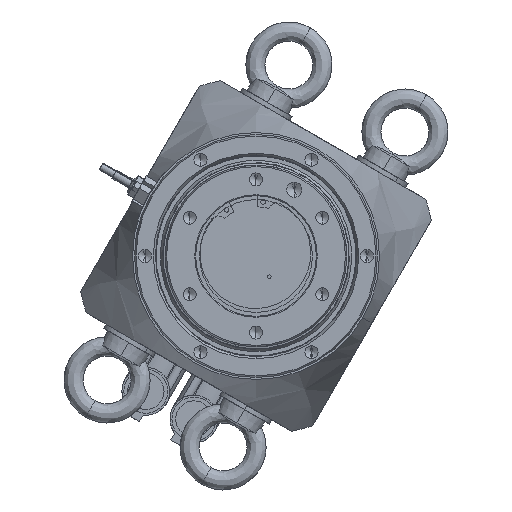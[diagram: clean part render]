
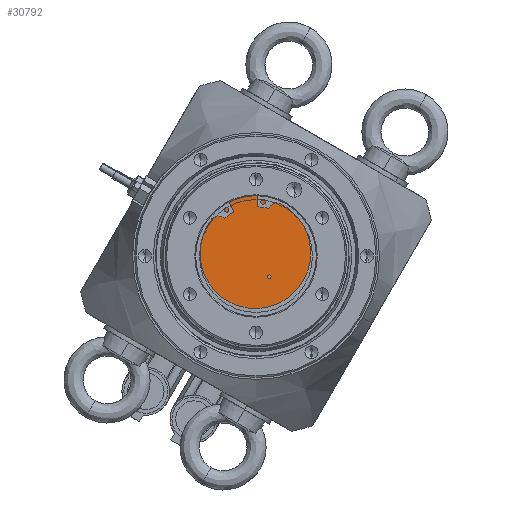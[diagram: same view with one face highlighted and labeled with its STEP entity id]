
A CAD part, front view. The second image highlights one B-rep face of the part: STEP entity #30792.
In plain terms, the highlighted planar face has unit normal (0, -1, 0).
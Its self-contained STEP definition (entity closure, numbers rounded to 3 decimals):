
#3617 = DIRECTION ( 'NONE',  ( 0., 1., 0. ) ) ;
#5717 = VERTEX_POINT ( 'NONE', #13965 ) ;
#6009 = CARTESIAN_POINT ( 'NONE',  ( 78.16, -247.879, 87.367 ) ) ;
#13965 = CARTESIAN_POINT ( 'NONE',  ( 71.219, -247.879, 128.694 ) ) ;
#14521 = DIRECTION ( 'NONE',  ( 0., 0., 1. ) ) ;
#15636 = DIRECTION ( 'NONE',  ( 0., 1., 0. ) ) ;
#16505 = AXIS2_PLACEMENT_3D ( 'NONE', #38890, #15636, #43622 ) ;
#18612 = EDGE_CURVE ( 'NONE', #29553, #32354, #41496, .T. ) ;
#18684 = AXIS2_PLACEMENT_3D ( 'NONE', #25039, #30157, #34423 ) ;
#21013 = FACE_BOUND ( 'NONE', #28574, .T. ) ;
#21206 = EDGE_CURVE ( 'NONE', #5717, #52795, #29458, .T. ) ;
#23594 = EDGE_CURVE ( 'NONE', #52795, #5717, #27758, .T. ) ;
#25039 = CARTESIAN_POINT ( 'NONE',  ( 78.16, -247.879, 86.367 ) ) ;
#26970 = AXIS2_PLACEMENT_3D ( 'NONE', #31642, #54598, #41035 ) ;
#27758 = CIRCLE ( 'NONE', #27903, 31.5 ) ;
#27903 = AXIS2_PLACEMENT_3D ( 'NONE', #31142, #3617, #35811 ) ;
#28574 = EDGE_LOOP ( 'NONE', ( #52330, #45171 ) ) ;
#28635 = DIRECTION ( 'NONE',  ( 0., 1., 0. ) ) ;
#29458 = CIRCLE ( 'NONE', #32050, 31.5 ) ;
#29553 = VERTEX_POINT ( 'NONE', #51907 ) ;
#30157 = DIRECTION ( 'NONE',  ( 0., 1., 0. ) ) ;
#30334 = ORIENTED_EDGE ( 'NONE', *, *, #21206, .F. ) ;
#30792 = ADVANCED_FACE ( 'NONE', ( #32672, #21013 ), #59749, .F. ) ;
#31142 = CARTESIAN_POINT ( 'NONE',  ( 71.219, -247.879, 97.194 ) ) ;
#31642 = CARTESIAN_POINT ( 'NONE',  ( 71.219, -247.879, 97.194 ) ) ;
#32050 = AXIS2_PLACEMENT_3D ( 'NONE', #37354, #28635, #14521 ) ;
#32119 = CARTESIAN_POINT ( 'NONE',  ( 71.219, -247.879, 65.694 ) ) ;
#32354 = VERTEX_POINT ( 'NONE', #6009 ) ;
#32672 = FACE_OUTER_BOUND ( 'NONE', #35357, .T. ) ;
#33535 = EDGE_CURVE ( 'NONE', #32354, #29553, #46919, .T. ) ;
#34423 = DIRECTION ( 'NONE',  ( 0., 0., 1. ) ) ;
#35357 = EDGE_LOOP ( 'NONE', ( #57779, #30334 ) ) ;
#35811 = DIRECTION ( 'NONE',  ( 0., 0., 1. ) ) ;
#37354 = CARTESIAN_POINT ( 'NONE',  ( 71.219, -247.879, 97.194 ) ) ;
#38890 = CARTESIAN_POINT ( 'NONE',  ( 78.16, -247.879, 86.367 ) ) ;
#41035 = DIRECTION ( 'NONE',  ( 0., 0., 1. ) ) ;
#41496 = CIRCLE ( 'NONE', #18684, 1. ) ;
#43622 = DIRECTION ( 'NONE',  ( 0., 0., 1. ) ) ;
#45171 = ORIENTED_EDGE ( 'NONE', *, *, #33535, .T. ) ;
#46919 = CIRCLE ( 'NONE', #16505, 1. ) ;
#51907 = CARTESIAN_POINT ( 'NONE',  ( 78.16, -247.879, 85.367 ) ) ;
#52330 = ORIENTED_EDGE ( 'NONE', *, *, #18612, .T. ) ;
#52795 = VERTEX_POINT ( 'NONE', #32119 ) ;
#54598 = DIRECTION ( 'NONE',  ( 0., 1., 0. ) ) ;
#57779 = ORIENTED_EDGE ( 'NONE', *, *, #23594, .F. ) ;
#59749 = PLANE ( 'NONE',  #26970 ) ;
